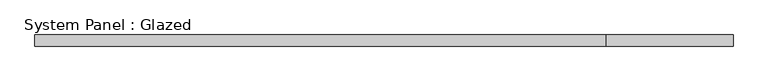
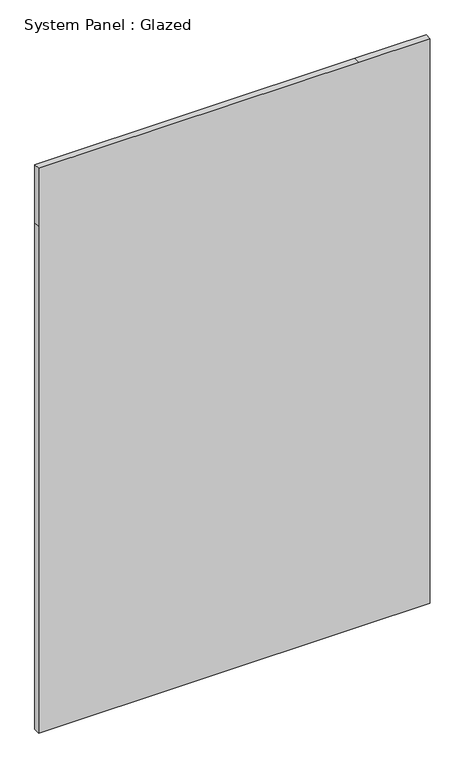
"""IFC4 building model written with IfcOpenShell, lengths in millimetres: plate geometry, System Panel : Glazed."""

from ifc_helpers import new_model, si_unit, frame, origin, place, context, project, spatial, polyline, outline, extrude, source, transform, mapped, element, save


def system_panel_glazed_c516a964(model_context):
    return source(origin(), model_context, "Body", "SweptSolid", [
        extrude(outline(polyline([(0.0, -768.35), (0.0, 488.95), (0.0, 768.35), (2101.85, 768.35), (2343.15, 768.35), (2343.15, 488.95), (2343.15, -768.35), (2101.85, -768.35), (0.0, -768.35)])), frame((0.0, -44.45, 0.0), z_axis=(0.0, 1.0, 0.0), x_axis=(0.0, 0.0, 1.0)), (0.0, 0.0, 1.0), 25.4),
    ])


if __name__ == "__main__":
    model = new_model("IFC4")
    model_context = context("Model", 3, world=origin())
    ifc_project = project(units=[si_unit("LENGTHUNIT", "METRE", prefix="MILLI")], contexts=[model_context])
    site = spatial("IfcSite", under=ifc_project)
    building = spatial("IfcBuilding", under=site)
    placement = place(None, origin())
    system_panel_glazed_shape = system_panel_glazed_c516a964(model_context)
    element("IfcPlate", 1, ObjectType="System Panel : Glazed", at=placement, inside=building, context=model_context, shape_type="MappedRepresentation", body=[
        mapped(system_panel_glazed_shape, transform((0.0, 0.0, 0.0), x_axis=(1.0, 0.0, 0.0), y_axis=(0.0, 1.0, 0.0), z_axis=(0.0, 0.0, 1.0))),
    ])
    save(model, "model.ifc")
